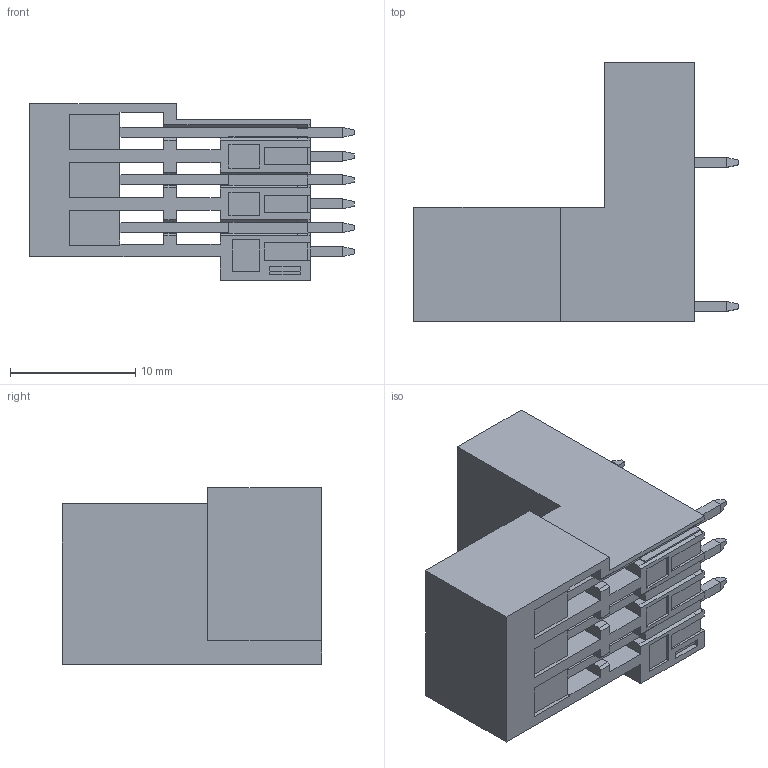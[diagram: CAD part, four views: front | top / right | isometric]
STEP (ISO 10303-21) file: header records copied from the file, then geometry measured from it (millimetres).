
FILE_DESCRIPTION((''),'2;1');
FILE_NAME('3','2019-05-09T',('zhenbing.lai'),(''),'CREO PARAMETRIC BY PTC INC, 2016260','CREO PARAMETRIC BY PTC INC, 2016260','');
FILE_SCHEMA(('CONFIG_CONTROL_DESIGN'));
Length unit declared in the file: millimetre
Products named in the file (1): 3
Bounding box: 25.9 x 20.7 x 14.12 mm (x, y, z)
Volume: 2439.8 mm3; surface area: 3423.2 mm2
Topology: 1 solids, 2 shells, 502 faces, 1349 edges, 863 vertices
Faces by surface type: plane 468, cylinder 28, cone 6
Entity records: 15449 total; most frequent: CARTESIAN_POINT 2904, ORIENTED_EDGE 2698, DIRECTION 2359, EDGE_CURVE 1349, VECTOR 1239, LINE 1239, VERTEX_POINT 863, AXIS2_PLACEMENT_3D 560
